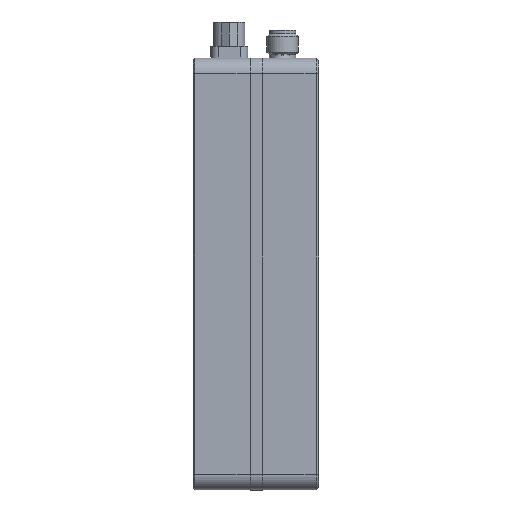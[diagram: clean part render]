
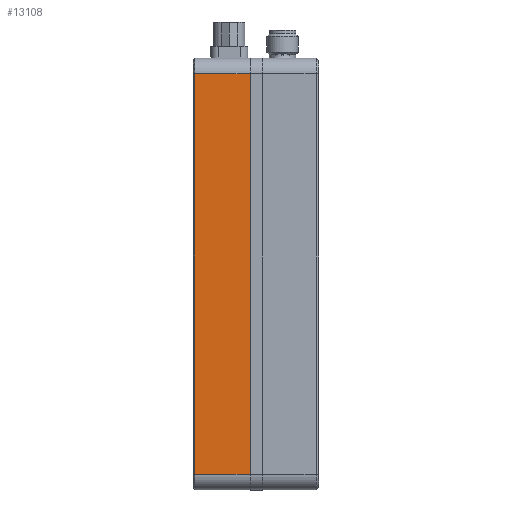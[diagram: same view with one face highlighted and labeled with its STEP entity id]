
A CAD part, left-side view. The second image highlights one B-rep face of the part: STEP entity #13108.
In plain terms, the highlighted planar face has unit normal (-1, 0, 0).
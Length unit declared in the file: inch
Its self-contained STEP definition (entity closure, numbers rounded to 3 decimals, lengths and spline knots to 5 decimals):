
#25 = CARTESIAN_POINT ( 'NONE',  ( 0., 0.99, -3.325 ) ) ;
#1311 = DIRECTION ( 'NONE',  ( 0., 0., -1. ) ) ;
#2490 = VECTOR ( 'NONE', #11093, 39.37008 ) ;
#2871 = EDGE_CURVE ( 'NONE', #9556, #27239, #8191, .T. ) ;
#3195 = EDGE_CURVE ( 'NONE', #27239, #19185, #33547, .T. ) ;
#4245 = CARTESIAN_POINT ( 'NONE',  ( 0., 0.99, -0.125 ) ) ;
#4573 = ORIENTED_EDGE ( 'NONE', *, *, #2871, .T. ) ;
#6398 = ORIENTED_EDGE ( 'NONE', *, *, #23119, .T. ) ;
#6592 = ORIENTED_EDGE ( 'NONE', *, *, #26995, .F. ) ;
#7093 = CARTESIAN_POINT ( 'NONE',  ( 0., 1., -3.325 ) ) ;
#8191 = LINE ( 'NONE', #16177, #2490 ) ;
#8688 = CARTESIAN_POINT ( 'NONE',  ( 0., 0.547, -3.325 ) ) ;
#9556 = VERTEX_POINT ( 'NONE', #17459 ) ;
#10164 = CARTESIAN_POINT ( 'NONE',  ( 0., 1., -0.125 ) ) ;
#10332 = DIRECTION ( 'NONE',  ( 0., -1., 0. ) ) ;
#10713 = DIRECTION ( 'NONE',  ( 0., 0., -1. ) ) ;
#11093 = DIRECTION ( 'NONE',  ( 0., -1., 0. ) ) ;
#13073 = DIRECTION ( 'NONE',  ( 1., 0., 0. ) ) ;
#13108 = ADVANCED_FACE ( 'NONE', ( #17979 ), #29416, .F. ) ;
#14830 = ORIENTED_EDGE ( 'NONE', *, *, #3195, .T. ) ;
#16177 = CARTESIAN_POINT ( 'NONE',  ( 0., 1., -3.325 ) ) ;
#16213 = VECTOR ( 'NONE', #10332, 39.37008 ) ;
#17459 = CARTESIAN_POINT ( 'NONE',  ( 0., 0.99, -3.325 ) ) ;
#17979 = FACE_OUTER_BOUND ( 'NONE', #20727, .T. ) ;
#19185 = VERTEX_POINT ( 'NONE', #34694 ) ;
#20727 = EDGE_LOOP ( 'NONE', ( #6592, #6398, #4573, #14830 ) ) ;
#21322 = CARTESIAN_POINT ( 'NONE',  ( 0., 0.547, -3.325 ) ) ;
#21336 = AXIS2_PLACEMENT_3D ( 'NONE', #7093, #13073, #1311 ) ;
#21599 = LINE ( 'NONE', #25, #29402 ) ;
#23119 = EDGE_CURVE ( 'NONE', #29609, #9556, #21599, .T. ) ;
#23341 = VECTOR ( 'NONE', #28282, 39.37008 ) ;
#24121 = LINE ( 'NONE', #10164, #16213 ) ;
#26995 = EDGE_CURVE ( 'NONE', #29609, #19185, #24121, .T. ) ;
#27239 = VERTEX_POINT ( 'NONE', #21322 ) ;
#28282 = DIRECTION ( 'NONE',  ( 0., 0., 1. ) ) ;
#29402 = VECTOR ( 'NONE', #10713, 39.37008 ) ;
#29416 = PLANE ( 'NONE',  #21336 ) ;
#29609 = VERTEX_POINT ( 'NONE', #4245 ) ;
#33547 = LINE ( 'NONE', #8688, #23341 ) ;
#34694 = CARTESIAN_POINT ( 'NONE',  ( 0., 0.547, -0.125 ) ) ;
